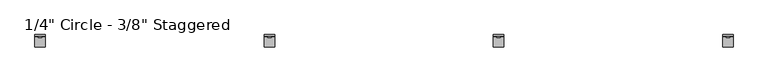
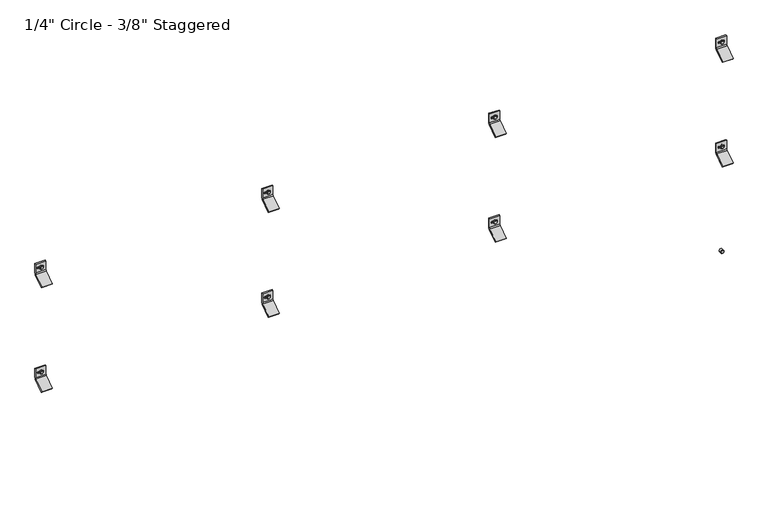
"""IFC4 building model written with IfcOpenShell, lengths in millimetres: plate geometry."""

from ifc_helpers import new_model, si_unit, point, frame, frame_2d, origin, place, context, project, spatial, polyline, circle_curve, trimmed, segment, composite_curve, outline, extrude, source, transform, mapped, element, save
from ifc_brep_helpers import plane_surface, cylinder_surface, revolved_surface, advanced_brep


def plate_8bd8e4bf(model_context):
    return source(origin(), model_context, "Body", "SolidModel", [
        extrude(outline(polyline([(1395.4295323, 1250.1282054), (1391.0838197, 1252.6372037), (1391.0838197, 1257.6552003), (1395.4295323, 1260.1641986), (1399.7752448, 1257.6552003), (1399.7752448, 1252.6372037), (1395.4295323, 1250.1282054)])), frame((0.0, -58.7607779, 0.0), z_axis=(0.0, 1.0, 0.0), x_axis=(0.0, 0.0, 1.0)), (0.0, 0.0, 1.0), 11.1357779),
        extrude(outline(composite_curve([segment(trimmed(circle_curve(frame_2d((1395.5228392, 1255.146202)), 6.35), [point((1395.5228392, 1261.496202))], [point((1395.5228392, 1248.796202))], False, "CARTESIAN"), True, "CONTINUOUS"), segment(trimmed(circle_curve(frame_2d((1395.5228392, 1255.146202)), 6.35), [point((1395.5228392, 1248.796202))], [point((1395.5228392, 1261.496202))], False, "CARTESIAN"), True, "CONTINUOUS")], self_intersect=False)), frame((0.0, -57.0817743, 0.0), z_axis=(0.0, 1.0, 0.0), x_axis=(0.0, 0.0, 1.0)), (0.0, 0.0, 1.0), 9.4567743),
        advanced_brep(
        [(1236.096202, -47.625, 1378.2802202), (1236.096202, -51.2819443, 1370.6181877), (1236.096202, -89.5163624, 1343.84616), (1236.096202, -92.9330442, 1347.2628418), (1236.096202, -54.3526876, 1374.2770983), (1236.096202, -52.4002, 1378.2802911), (1236.096202, -52.4002, 1412.4729053), (1236.096202, -47.625, 1412.4729053), (1274.196202, -47.625, 1378.2802202), (1274.196202, -47.625, 1412.4729053), (1274.196202, -52.4002, 1412.4729053), (1274.196202, -52.4002, 1378.2802911), (1274.196202, -54.3526876, 1374.2770983), (1274.196202, -92.9330442, 1347.2628418), (1274.196202, -89.5163624, 1343.84616), (1274.196202, -51.2819443, 1370.6181877), (1261.8873909, -52.4002, 1398.4276891), (1261.8873909, -52.4002, 1392.0776891), (1245.6595307, -52.4002, 1392.0776891), (1245.6595307, -52.4002, 1398.4276891), (1261.8873909, -47.625, 1392.0776891), (1261.8873909, -47.625, 1398.4276891), (1245.6595307, -47.625, 1398.4276891), (1245.6595307, -47.625, 1392.0776891)],
        [
            (0, 1, circle_curve(frame((1236.096202, -57.4802202, 1378.2802202), z_axis=(-1.0, 0.0, 0.0), x_axis=(0.0, -1.0, 0.0)), 9.8552202)),
            (1, 2),
            (2, 3),
            (3, 4),
            (4, 5, circle_curve(frame((1236.096202, -57.4803246, 1378.2802911), z_axis=(1.0, 0.0, 0.0), x_axis=(0.0, -1.0, 0.0)), 5.0801246)),
            (5, 6),
            (6, 7),
            (7, 0),
            (8, 9),
            (9, 10),
            (10, 11),
            (11, 12, circle_curve(frame((1274.196202, -57.4803246, 1378.2802911), z_axis=(-1.0, 0.0, 0.0), x_axis=(0.0, -1.0, 0.0)), 5.0801246)),
            (12, 13),
            (13, 14),
            (14, 15),
            (15, 8, circle_curve(frame((1274.196202, -57.4802202, 1378.2802202), z_axis=(1.0, 0.0, 0.0), x_axis=(0.0, -1.0, 0.0)), 9.8552202)),
            (4, 12),
            (11, 5),
            (10, 6),
            (16, 17, circle_curve(frame((1261.8873909, -52.4002, 1395.2526891), z_axis=(0.0, 1.0, 0.0), x_axis=(0.0, 0.0, -1.0)), 3.175)),
            (17, 18),
            (18, 19, circle_curve(frame((1245.6595307, -52.4002, 1395.2526891), z_axis=(0.0, 1.0, 0.0), x_axis=(0.0, 0.0, -1.0)), 3.175)),
            (19, 16),
            (9, 7),
            (8, 0),
            (20, 21, circle_curve(frame((1261.8873909, -47.625, 1395.2526891), z_axis=(0.0, -1.0, 0.0), x_axis=(0.0, 0.0, -1.0)), 3.175)),
            (21, 22),
            (22, 23, circle_curve(frame((1245.6595307, -47.625, 1395.2526891), z_axis=(0.0, -1.0, 0.0), x_axis=(0.0, 0.0, -1.0)), 3.175)),
            (23, 20),
            (15, 1),
            (20, 17),
            (16, 21),
            (19, 22),
            (18, 23),
            (14, 2),
            (13, 3),
        ],
        [
            plane_surface(frame((1236.096202, -67.3354404, 1378.2802202), z_axis=(-1.0, 0.0, 0.0), x_axis=(0.0, 0.0, 1.0))),
            plane_surface(frame((1274.196202, -67.3354404, 1378.2802202), z_axis=(1.0, 0.0, 0.0), x_axis=(0.0, 0.0, -1.0))),
            revolved_surface(polyline([(1274.196202, -62.5604492, 1378.2802911), (1236.096202, -62.5604492, 1378.2802911)]), (1274.196202, -57.4803246, 1378.2802911), (1.0, 0.0, 0.0)),
            plane_surface(frame((1236.096202, -52.4002, 1378.2802911), z_axis=(0.0, -1.0, 0.0), x_axis=(1.0, 0.0, 0.0))),
            plane_surface(frame((1236.096202, -52.4002, 1412.4729053), z_axis=(0.0, 0.0, 1.0), x_axis=(1.0, 0.0, 0.0))),
            plane_surface(frame((1236.096202, -47.625, 1412.4729053), z_axis=(0.0, 1.0, 6.99569853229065e-12), x_axis=(1.0, 0.0, 0.0))),
            cylinder_surface(frame((1274.196202, -57.4802202, 1378.2802202), z_axis=(-1.0, 0.0, 0.0), x_axis=(0.0, -1.0, 0.0)), 9.8552202),
            revolved_surface(polyline([(1261.8873909, -52.4002, 1392.0776891), (1261.8873909, -47.625, 1392.0776891)]), (1261.8873909, -25.6669948, 1395.2526891), (0.0, -1.0, 0.0)),
            plane_surface(frame((1261.8873909, -86.677982, 1398.4276891), z_axis=(0.0, 0.0, -1.0), x_axis=(0.0, 1.0, 0.0))),
            revolved_surface(polyline([(1245.6595307, -52.4002, 1392.0776891), (1245.6595307, -47.625, 1392.0776891)]), (1245.6595307, -25.6669948, 1395.2526891), (0.0, -1.0, 0.0)),
            plane_surface(frame((1245.6595307, -86.677982, 1392.0776891), z_axis=(-2.7237720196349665e-11, 0.0, 1.0), x_axis=(0.0, 1.0, 0.0))),
            plane_surface(frame((1236.096202, -51.2819443, 1370.6181877), z_axis=(0.0, 0.5735764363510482, -0.8191520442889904), x_axis=(1.0, 0.0, 0.0))),
            plane_surface(frame((1236.096202, -89.5163624, 1343.84616), z_axis=(0.0, -0.7071067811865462, -0.7071067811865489), x_axis=(1.0, 0.0, 0.0))),
            plane_surface(frame((1236.096202, -92.9330442, 1347.2628418), z_axis=(0.0, -0.5735764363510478, 0.8191520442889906), x_axis=(1.0, 0.0, 0.0))),
        ],
        [
            (0, [[1, 2, 3, 4, 5, 6, 7, 8]]),
            (1, [[9, 10, 11, 12, 13, 14, 15, 16]]),
            (2, [[-5, 17, -12, 18]]),
            (3, [[-6, -18, -11, 19], [20, 21, 22, 23]]),
            (4, [[-7, -19, -10, 24]]),
            (5, [[-8, -24, -9, 25], [26, 27, 28, 29]]),
            (6, [[-1, -25, -16, 30]]),
            (7, [[31, -20, 32, -26]]),
            (8, [[-32, -23, 33, -27]]),
            (9, [[-33, -22, 34, -28]]),
            (10, [[-31, -29, -34, -21]]),
            (11, [[-2, -30, -15, 35]]),
            (12, [[-3, -35, -14, 36]]),
            (13, [[-4, -36, -13, -17]]),
        ],
    ),
        extrude(outline(polyline([(1395.4295323, 413.3640708), (1391.0838197, 415.873069), (1391.0838197, 420.8910656), (1395.4295323, 423.4000639), (1399.7752448, 420.8910656), (1399.7752448, 415.873069), (1395.4295323, 413.3640708)])), frame((0.0, -58.7607779, 0.0), z_axis=(0.0, 1.0, 0.0), x_axis=(0.0, 0.0, 1.0)), (0.0, 0.0, 1.0), 11.1357779),
        extrude(outline(composite_curve([segment(trimmed(circle_curve(frame_2d((1395.5228392, 418.3820673)), 6.35), [point((1395.5228392, 424.7320673))], [point((1395.5228392, 412.0320673))], False, "CARTESIAN"), True, "CONTINUOUS"), segment(trimmed(circle_curve(frame_2d((1395.5228392, 418.3820673)), 6.35), [point((1395.5228392, 412.0320673))], [point((1395.5228392, 424.7320673))], False, "CARTESIAN"), True, "CONTINUOUS")], self_intersect=False)), frame((0.0, -57.0817743, 0.0), z_axis=(0.0, 1.0, 0.0), x_axis=(0.0, 0.0, 1.0)), (0.0, 0.0, 1.0), 9.4567743),
        advanced_brep(
        [(399.3320673, -47.625, 1378.2802202), (399.3320673, -51.2819443, 1370.6181877), (399.3320673, -89.5163624, 1343.84616), (399.3320673, -92.9330442, 1347.2628418), (399.3320673, -54.3526876, 1374.2770983), (399.3320673, -52.4002, 1378.2802911), (399.3320673, -52.4002, 1412.4729053), (399.3320673, -47.625, 1412.4729053), (437.4320673, -47.625, 1378.2802202), (437.4320673, -47.625, 1412.4729053), (437.4320673, -52.4002, 1412.4729053), (437.4320673, -52.4002, 1378.2802911), (437.4320673, -54.3526876, 1374.2770983), (437.4320673, -92.9330442, 1347.2628418), (437.4320673, -89.5163624, 1343.84616), (437.4320673, -51.2819443, 1370.6181877), (425.1232562, -52.4002, 1398.4276891), (425.1232562, -52.4002, 1392.0776891), (408.895396, -52.4002, 1392.0776891), (408.895396, -52.4002, 1398.4276891), (425.1232562, -47.625, 1392.0776891), (425.1232562, -47.625, 1398.4276891), (408.895396, -47.625, 1398.4276891), (408.895396, -47.625, 1392.0776891)],
        [
            (0, 1, circle_curve(frame((399.3320673, -57.4802202, 1378.2802202), z_axis=(-1.0, 0.0, 0.0), x_axis=(0.0, -1.0, 0.0)), 9.8552202)),
            (1, 2),
            (2, 3),
            (3, 4),
            (4, 5, circle_curve(frame((399.3320673, -57.4803246, 1378.2802911), z_axis=(1.0, 0.0, 0.0), x_axis=(0.0, -1.0, 0.0)), 5.0801246)),
            (5, 6),
            (6, 7),
            (7, 0),
            (8, 9),
            (9, 10),
            (10, 11),
            (11, 12, circle_curve(frame((437.4320673, -57.4803246, 1378.2802911), z_axis=(-1.0, 0.0, 0.0), x_axis=(0.0, -1.0, 0.0)), 5.0801246)),
            (12, 13),
            (13, 14),
            (14, 15),
            (15, 8, circle_curve(frame((437.4320673, -57.4802202, 1378.2802202), z_axis=(1.0, 0.0, 0.0), x_axis=(0.0, -1.0, 0.0)), 9.8552202)),
            (4, 12),
            (11, 5),
            (10, 6),
            (16, 17, circle_curve(frame((425.1232562, -52.4002, 1395.2526891), z_axis=(0.0, 1.0, 0.0), x_axis=(0.0, 0.0, -1.0)), 3.175)),
            (17, 18),
            (18, 19, circle_curve(frame((408.895396, -52.4002, 1395.2526891), z_axis=(0.0, 1.0, 0.0), x_axis=(0.0, 0.0, -1.0)), 3.175)),
            (19, 16),
            (9, 7),
            (8, 0),
            (20, 21, circle_curve(frame((425.1232562, -47.625, 1395.2526891), z_axis=(0.0, -1.0, 0.0), x_axis=(0.0, 0.0, -1.0)), 3.175)),
            (21, 22),
            (22, 23, circle_curve(frame((408.895396, -47.625, 1395.2526891), z_axis=(0.0, -1.0, 0.0), x_axis=(0.0, 0.0, -1.0)), 3.175)),
            (23, 20),
            (15, 1),
            (20, 17),
            (16, 21),
            (19, 22),
            (18, 23),
            (14, 2),
            (13, 3),
        ],
        [
            plane_surface(frame((399.3320673, -67.3354404, 1378.2802202), z_axis=(-1.0, 0.0, 0.0), x_axis=(0.0, 0.0, 1.0))),
            plane_surface(frame((437.4320673, -67.3354404, 1378.2802202), z_axis=(1.0, 0.0, 0.0), x_axis=(0.0, 0.0, -1.0))),
            revolved_surface(polyline([(437.4320673, -62.5604492, 1378.2802911), (399.3320673, -62.5604492, 1378.2802911)]), (437.4320673, -57.4803246, 1378.2802911), (1.0, 0.0, 0.0)),
            plane_surface(frame((399.3320673, -52.4002, 1378.2802911), z_axis=(0.0, -1.0, 0.0), x_axis=(1.0, 0.0, 0.0))),
            plane_surface(frame((399.3320673, -52.4002, 1412.4729053), z_axis=(0.0, 0.0, 1.0), x_axis=(1.0, 0.0, 0.0))),
            plane_surface(frame((399.3320673, -47.625, 1412.4729053), z_axis=(0.0, 1.0, 6.99569853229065e-12), x_axis=(1.0, 0.0, 0.0))),
            cylinder_surface(frame((437.4320673, -57.4802202, 1378.2802202), z_axis=(-1.0, 0.0, 0.0), x_axis=(0.0, -1.0, 0.0)), 9.8552202),
            revolved_surface(polyline([(425.1232562, -52.4002, 1392.0776891), (425.1232562, -47.625, 1392.0776891)]), (425.1232562, -25.6669948, 1395.2526891), (0.0, -1.0, 0.0)),
            plane_surface(frame((425.1232562, -86.677982, 1398.4276891), z_axis=(0.0, 0.0, -1.0), x_axis=(0.0, 1.0, 0.0))),
            revolved_surface(polyline([(408.895396, -52.4002, 1392.0776891), (408.895396, -47.625, 1392.0776891)]), (408.895396, -25.6669948, 1395.2526891), (0.0, -1.0, 0.0)),
            plane_surface(frame((408.895396, -86.677982, 1392.0776891), z_axis=(-2.7237720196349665e-11, 0.0, 1.0), x_axis=(0.0, 1.0, 0.0))),
            plane_surface(frame((399.3320673, -51.2819443, 1370.6181877), z_axis=(0.0, 0.5735764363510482, -0.8191520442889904), x_axis=(1.0, 0.0, 0.0))),
            plane_surface(frame((399.3320673, -89.5163624, 1343.84616), z_axis=(0.0, -0.7071067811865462, -0.7071067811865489), x_axis=(1.0, 0.0, 0.0))),
            plane_surface(frame((399.3320673, -92.9330442, 1347.2628418), z_axis=(0.0, -0.5735764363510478, 0.8191520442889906), x_axis=(1.0, 0.0, 0.0))),
        ],
        [
            (0, [[1, 2, 3, 4, 5, 6, 7, 8]]),
            (1, [[9, 10, 11, 12, 13, 14, 15, 16]]),
            (2, [[-5, 17, -12, 18]]),
            (3, [[-6, -18, -11, 19], [20, 21, 22, 23]]),
            (4, [[-7, -19, -10, 24]]),
            (5, [[-8, -24, -9, 25], [26, 27, 28, 29]]),
            (6, [[-1, -25, -16, 30]]),
            (7, [[31, -20, 32, -26]]),
            (8, [[-32, -23, 33, -27]]),
            (9, [[-33, -22, 34, -28]]),
            (10, [[-31, -29, -34, -21]]),
            (11, [[-2, -30, -15, 35]]),
            (12, [[-3, -35, -14, 36]]),
            (13, [[-4, -36, -13, -17]]),
        ],
    ),
        extrude(outline(polyline([(1395.4295323, -423.4000639), (1391.0838197, -420.8910656), (1391.0838197, -415.873069), (1395.4295323, -413.3640708), (1399.7752448, -415.873069), (1399.7752448, -420.8910656), (1395.4295323, -423.4000639)])), frame((0.0, -58.7607779, 0.0), z_axis=(0.0, 1.0, 0.0), x_axis=(0.0, 0.0, 1.0)), (0.0, 0.0, 1.0), 11.1357779),
        extrude(outline(composite_curve([segment(trimmed(circle_curve(frame_2d((1395.5228392, -418.3820673)), 6.35), [point((1395.5228392, -412.0320673))], [point((1395.5228392, -424.7320673))], False, "CARTESIAN"), True, "CONTINUOUS"), segment(trimmed(circle_curve(frame_2d((1395.5228392, -418.3820673)), 6.35), [point((1395.5228392, -424.7320673))], [point((1395.5228392, -412.0320673))], False, "CARTESIAN"), True, "CONTINUOUS")], self_intersect=False)), frame((0.0, -57.0817743, 0.0), z_axis=(0.0, 1.0, 0.0), x_axis=(0.0, 0.0, 1.0)), (0.0, 0.0, 1.0), 9.4567743),
        advanced_brep(
        [(-437.4320673, -47.625, 1378.2802202), (-437.4320673, -51.2819443, 1370.6181877), (-437.4320673, -89.5163624, 1343.84616), (-437.4320673, -92.9330442, 1347.2628418), (-437.4320673, -54.3526876, 1374.2770983), (-437.4320673, -52.4002, 1378.2802911), (-437.4320673, -52.4002, 1412.4729053), (-437.4320673, -47.625, 1412.4729053), (-399.3320673, -47.625, 1378.2802202), (-399.3320673, -47.625, 1412.4729053), (-399.3320673, -52.4002, 1412.4729053), (-399.3320673, -52.4002, 1378.2802911), (-399.3320673, -54.3526876, 1374.2770983), (-399.3320673, -92.9330442, 1347.2628418), (-399.3320673, -89.5163624, 1343.84616), (-399.3320673, -51.2819443, 1370.6181877), (-411.6408784, -52.4002, 1398.4276891), (-411.6408784, -52.4002, 1392.0776891), (-427.8687386, -52.4002, 1392.0776891), (-427.8687386, -52.4002, 1398.4276891), (-411.6408784, -47.625, 1392.0776891), (-411.6408784, -47.625, 1398.4276891), (-427.8687386, -47.625, 1398.4276891), (-427.8687386, -47.625, 1392.0776891)],
        [
            (0, 1, circle_curve(frame((-437.4320673, -57.4802202, 1378.2802202), z_axis=(-1.0, 0.0, 0.0), x_axis=(0.0, -1.0, 0.0)), 9.8552202)),
            (1, 2),
            (2, 3),
            (3, 4),
            (4, 5, circle_curve(frame((-437.4320673, -57.4803246, 1378.2802911), z_axis=(1.0, 0.0, 0.0), x_axis=(0.0, -1.0, 0.0)), 5.0801246)),
            (5, 6),
            (6, 7),
            (7, 0),
            (8, 9),
            (9, 10),
            (10, 11),
            (11, 12, circle_curve(frame((-399.3320673, -57.4803246, 1378.2802911), z_axis=(-1.0, 0.0, 0.0), x_axis=(0.0, -1.0, 0.0)), 5.0801246)),
            (12, 13),
            (13, 14),
            (14, 15),
            (15, 8, circle_curve(frame((-399.3320673, -57.4802202, 1378.2802202), z_axis=(1.0, 0.0, 0.0), x_axis=(0.0, -1.0, 0.0)), 9.8552202)),
            (4, 12),
            (11, 5),
            (10, 6),
            (16, 17, circle_curve(frame((-411.6408784, -52.4002, 1395.2526891), z_axis=(0.0, 1.0, 0.0), x_axis=(0.0, 0.0, -1.0)), 3.175)),
            (17, 18),
            (18, 19, circle_curve(frame((-427.8687386, -52.4002, 1395.2526891), z_axis=(0.0, 1.0, 0.0), x_axis=(0.0, 0.0, -1.0)), 3.175)),
            (19, 16),
            (9, 7),
            (8, 0),
            (20, 21, circle_curve(frame((-411.6408784, -47.625, 1395.2526891), z_axis=(0.0, -1.0, 0.0), x_axis=(0.0, 0.0, -1.0)), 3.175)),
            (21, 22),
            (22, 23, circle_curve(frame((-427.8687386, -47.625, 1395.2526891), z_axis=(0.0, -1.0, 0.0), x_axis=(0.0, 0.0, -1.0)), 3.175)),
            (23, 20),
            (15, 1),
            (20, 17),
            (16, 21),
            (19, 22),
            (18, 23),
            (14, 2),
            (13, 3),
        ],
        [
            plane_surface(frame((-437.4320673, -67.3354404, 1378.2802202), z_axis=(-1.0, 0.0, 0.0), x_axis=(0.0, 0.0, 1.0))),
            plane_surface(frame((-399.3320673, -67.3354404, 1378.2802202), z_axis=(1.0, 0.0, 0.0), x_axis=(0.0, 0.0, -1.0))),
            revolved_surface(polyline([(-399.3320673, -62.5604492, 1378.2802911), (-437.4320673, -62.5604492, 1378.2802911)]), (-399.3320673, -57.4803246, 1378.2802911), (1.0, 0.0, 0.0)),
            plane_surface(frame((-437.4320673, -52.4002, 1378.2802911), z_axis=(0.0, -1.0, 0.0), x_axis=(1.0, 0.0, 0.0))),
            plane_surface(frame((-437.4320673, -52.4002, 1412.4729053), z_axis=(0.0, 0.0, 1.0), x_axis=(1.0, 0.0, 0.0))),
            plane_surface(frame((-437.4320673, -47.625, 1412.4729053), z_axis=(0.0, 1.0, 6.99569853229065e-12), x_axis=(1.0, 0.0, 0.0))),
            cylinder_surface(frame((-399.3320673, -57.4802202, 1378.2802202), z_axis=(-1.0, 0.0, 0.0), x_axis=(0.0, -1.0, 0.0)), 9.8552202),
            revolved_surface(polyline([(-411.6408784, -52.4002, 1392.0776891), (-411.6408784, -47.625, 1392.0776891)]), (-411.6408784, -25.6669948, 1395.2526891), (0.0, -1.0, 0.0)),
            plane_surface(frame((-411.6408784, -86.677982, 1398.4276891), z_axis=(0.0, 0.0, -1.0), x_axis=(0.0, 1.0, 0.0))),
            revolved_surface(polyline([(-427.8687386, -52.4002, 1392.0776891), (-427.8687386, -47.625, 1392.0776891)]), (-427.8687386, -25.6669948, 1395.2526891), (0.0, -1.0, 0.0)),
            plane_surface(frame((-427.8687386, -86.677982, 1392.0776891), z_axis=(-2.7237720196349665e-11, 0.0, 1.0), x_axis=(0.0, 1.0, 0.0))),
            plane_surface(frame((-437.4320673, -51.2819443, 1370.6181877), z_axis=(0.0, 0.5735764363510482, -0.8191520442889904), x_axis=(1.0, 0.0, 0.0))),
            plane_surface(frame((-437.4320673, -89.5163624, 1343.84616), z_axis=(0.0, -0.7071067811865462, -0.7071067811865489), x_axis=(1.0, 0.0, 0.0))),
            plane_surface(frame((-437.4320673, -92.9330442, 1347.2628418), z_axis=(0.0, -0.5735764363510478, 0.8191520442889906), x_axis=(1.0, 0.0, 0.0))),
        ],
        [
            (0, [[1, 2, 3, 4, 5, 6, 7, 8]]),
            (1, [[9, 10, 11, 12, 13, 14, 15, 16]]),
            (2, [[-5, 17, -12, 18]]),
            (3, [[-6, -18, -11, 19], [20, 21, 22, 23]]),
            (4, [[-7, -19, -10, 24]]),
            (5, [[-8, -24, -9, 25], [26, 27, 28, 29]]),
            (6, [[-1, -25, -16, 30]]),
            (7, [[31, -20, 32, -26]]),
            (8, [[-32, -23, 33, -27]]),
            (9, [[-33, -22, 34, -28]]),
            (10, [[-31, -29, -34, -21]]),
            (11, [[-2, -30, -15, 35]]),
            (12, [[-3, -35, -14, 36]]),
            (13, [[-4, -36, -13, -17]]),
        ],
    ),
        extrude(outline(polyline([(1395.4295323, -1260.1641986), (1391.0838197, -1257.6552003), (1391.0838197, -1252.6372037), (1395.4295323, -1250.1282054), (1399.7752448, -1252.6372037), (1399.7752448, -1257.6552003), (1395.4295323, -1260.1641986)])), frame((0.0, -58.7607779, 0.0), z_axis=(0.0, 1.0, 0.0), x_axis=(0.0, 0.0, 1.0)), (0.0, 0.0, 1.0), 11.1357779),
        extrude(outline(composite_curve([segment(trimmed(circle_curve(frame_2d((1395.5228392, -1255.146202)), 6.35), [point((1395.5228392, -1248.796202))], [point((1395.5228392, -1261.496202))], False, "CARTESIAN"), True, "CONTINUOUS"), segment(trimmed(circle_curve(frame_2d((1395.5228392, -1255.146202)), 6.35), [point((1395.5228392, -1261.496202))], [point((1395.5228392, -1248.796202))], False, "CARTESIAN"), True, "CONTINUOUS")], self_intersect=False)), frame((0.0, -57.0817743, 0.0), z_axis=(0.0, 1.0, 0.0), x_axis=(0.0, 0.0, 1.0)), (0.0, 0.0, 1.0), 9.4567743),
        advanced_brep(
        [(-1274.196202, -47.625, 1378.2802202), (-1274.196202, -51.2819443, 1370.6181877), (-1274.196202, -89.5163624, 1343.84616), (-1274.196202, -92.9330442, 1347.2628418), (-1274.196202, -54.3526876, 1374.2770983), (-1274.196202, -52.4002, 1378.2802911), (-1274.196202, -52.4002, 1412.4729053), (-1274.196202, -47.625, 1412.4729053), (-1236.096202, -47.625, 1378.2802202), (-1236.096202, -47.625, 1412.4729053), (-1236.096202, -52.4002, 1412.4729053), (-1236.096202, -52.4002, 1378.2802911), (-1236.096202, -54.3526876, 1374.2770983), (-1236.096202, -92.9330442, 1347.2628418), (-1236.096202, -89.5163624, 1343.84616), (-1236.096202, -51.2819443, 1370.6181877), (-1248.4050131, -52.4002, 1398.4276891), (-1248.4050131, -52.4002, 1392.0776891), (-1264.6328733, -52.4002, 1392.0776891), (-1264.6328733, -52.4002, 1398.4276891), (-1248.4050131, -47.625, 1392.0776891), (-1248.4050131, -47.625, 1398.4276891), (-1264.6328733, -47.625, 1398.4276891), (-1264.6328733, -47.625, 1392.0776891)],
        [
            (0, 1, circle_curve(frame((-1274.196202, -57.4802202, 1378.2802202), z_axis=(-1.0, 0.0, 0.0), x_axis=(0.0, -1.0, 0.0)), 9.8552202)),
            (1, 2),
            (2, 3),
            (3, 4),
            (4, 5, circle_curve(frame((-1274.196202, -57.4803246, 1378.2802911), z_axis=(1.0, 0.0, 0.0), x_axis=(0.0, -1.0, 0.0)), 5.0801246)),
            (5, 6),
            (6, 7),
            (7, 0),
            (8, 9),
            (9, 10),
            (10, 11),
            (11, 12, circle_curve(frame((-1236.096202, -57.4803246, 1378.2802911), z_axis=(-1.0, 0.0, 0.0), x_axis=(0.0, -1.0, 0.0)), 5.0801246)),
            (12, 13),
            (13, 14),
            (14, 15),
            (15, 8, circle_curve(frame((-1236.096202, -57.4802202, 1378.2802202), z_axis=(1.0, 0.0, 0.0), x_axis=(0.0, -1.0, 0.0)), 9.8552202)),
            (4, 12),
            (11, 5),
            (10, 6),
            (16, 17, circle_curve(frame((-1248.4050131, -52.4002, 1395.2526891), z_axis=(0.0, 1.0, 0.0), x_axis=(0.0, 0.0, -1.0)), 3.175)),
            (17, 18),
            (18, 19, circle_curve(frame((-1264.6328733, -52.4002, 1395.2526891), z_axis=(0.0, 1.0, 0.0), x_axis=(0.0, 0.0, -1.0)), 3.175)),
            (19, 16),
            (9, 7),
            (8, 0),
            (20, 21, circle_curve(frame((-1248.4050131, -47.625, 1395.2526891), z_axis=(0.0, -1.0, 0.0), x_axis=(0.0, 0.0, -1.0)), 3.175)),
            (21, 22),
            (22, 23, circle_curve(frame((-1264.6328733, -47.625, 1395.2526891), z_axis=(0.0, -1.0, 0.0), x_axis=(0.0, 0.0, -1.0)), 3.175)),
            (23, 20),
            (15, 1),
            (20, 17),
            (16, 21),
            (19, 22),
            (18, 23),
            (14, 2),
            (13, 3),
        ],
        [
            plane_surface(frame((-1274.196202, -67.3354404, 1378.2802202), z_axis=(-1.0, 0.0, 0.0), x_axis=(0.0, 0.0, 1.0))),
            plane_surface(frame((-1236.096202, -67.3354404, 1378.2802202), z_axis=(1.0, 0.0, 0.0), x_axis=(0.0, 0.0, -1.0))),
            revolved_surface(polyline([(-1236.096202, -62.5604492, 1378.2802911), (-1274.196202, -62.5604492, 1378.2802911)]), (-1236.096202, -57.4803246, 1378.2802911), (1.0, 0.0, 0.0)),
            plane_surface(frame((-1274.196202, -52.4002, 1378.2802911), z_axis=(0.0, -1.0, 0.0), x_axis=(1.0, 0.0, 0.0))),
            plane_surface(frame((-1274.196202, -52.4002, 1412.4729053), z_axis=(0.0, 0.0, 1.0), x_axis=(1.0, 0.0, 0.0))),
            plane_surface(frame((-1274.196202, -47.625, 1412.4729053), z_axis=(0.0, 1.0, 6.99569853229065e-12), x_axis=(1.0, 0.0, 0.0))),
            cylinder_surface(frame((-1236.096202, -57.4802202, 1378.2802202), z_axis=(-1.0, 0.0, 0.0), x_axis=(0.0, -1.0, 0.0)), 9.8552202),
            revolved_surface(polyline([(-1248.4050131, -52.4002, 1392.0776891), (-1248.4050131, -47.625, 1392.0776891)]), (-1248.4050131, -25.6669948, 1395.2526891), (0.0, -1.0, 0.0)),
            plane_surface(frame((-1248.4050131, -86.677982, 1398.4276891), z_axis=(0.0, 0.0, -1.0), x_axis=(0.0, 1.0, 0.0))),
            revolved_surface(polyline([(-1264.6328733, -52.4002, 1392.0776891), (-1264.6328733, -47.625, 1392.0776891)]), (-1264.6328733, -25.6669948, 1395.2526891), (0.0, -1.0, 0.0)),
            plane_surface(frame((-1264.6328733, -86.677982, 1392.0776891), z_axis=(-2.7237720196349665e-11, 0.0, 1.0), x_axis=(0.0, 1.0, 0.0))),
            plane_surface(frame((-1274.196202, -51.2819443, 1370.6181877), z_axis=(0.0, 0.5735764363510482, -0.8191520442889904), x_axis=(1.0, 0.0, 0.0))),
            plane_surface(frame((-1274.196202, -89.5163624, 1343.84616), z_axis=(0.0, -0.7071067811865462, -0.7071067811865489), x_axis=(1.0, 0.0, 0.0))),
            plane_surface(frame((-1274.196202, -92.9330442, 1347.2628418), z_axis=(0.0, -0.5735764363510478, 0.8191520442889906), x_axis=(1.0, 0.0, 0.0))),
        ],
        [
            (0, [[1, 2, 3, 4, 5, 6, 7, 8]]),
            (1, [[9, 10, 11, 12, 13, 14, 15, 16]]),
            (2, [[-5, 17, -12, 18]]),
            (3, [[-6, -18, -11, 19], [20, 21, 22, 23]]),
            (4, [[-7, -19, -10, 24]]),
            (5, [[-8, -24, -9, 25], [26, 27, 28, 29]]),
            (6, [[-1, -25, -16, 30]]),
            (7, [[31, -20, 32, -26]]),
            (8, [[-32, -23, 33, -27]]),
            (9, [[-33, -22, 34, -28]]),
            (10, [[-31, -29, -34, -21]]),
            (11, [[-2, -30, -15, 35]]),
            (12, [[-3, -35, -14, 36]]),
            (13, [[-4, -36, -13, -17]]),
        ],
    ),
        extrude(outline(polyline([(986.9128656, 1250.1282054), (982.5671531, 1252.6372037), (982.5671531, 1257.6552003), (986.9128656, 1260.1641986), (991.2585781, 1257.6552003), (991.2585781, 1252.6372037), (986.9128656, 1250.1282054)])), frame((0.0, -58.7607779, 0.0), z_axis=(0.0, 1.0, 0.0), x_axis=(0.0, 0.0, 1.0)), (0.0, 0.0, 1.0), 11.1357779),
        extrude(outline(composite_curve([segment(trimmed(circle_curve(frame_2d((987.0061726, 1255.146202)), 6.35), [point((987.0061726, 1261.496202))], [point((987.0061726, 1248.796202))], False, "CARTESIAN"), True, "CONTINUOUS"), segment(trimmed(circle_curve(frame_2d((987.0061726, 1255.146202)), 6.35), [point((987.0061726, 1248.796202))], [point((987.0061726, 1261.496202))], False, "CARTESIAN"), True, "CONTINUOUS")], self_intersect=False)), frame((0.0, -57.0817743, 0.0), z_axis=(0.0, 1.0, 0.0), x_axis=(0.0, 0.0, 1.0)), (0.0, 0.0, 1.0), 9.4567743),
        advanced_brep(
        [(1236.096202, -47.625, 969.7635535), (1236.096202, -51.2819443, 962.1015211), (1236.096202, -89.5163624, 935.3294933), (1236.096202, -92.9330442, 938.7461751), (1236.096202, -54.3526876, 965.7604316), (1236.096202, -52.4002, 969.7636244), (1236.096202, -52.4002, 1003.9562386), (1236.096202, -47.625, 1003.9562386), (1274.196202, -47.625, 969.7635535), (1274.196202, -47.625, 1003.9562386), (1274.196202, -52.4002, 1003.9562386), (1274.196202, -52.4002, 969.7636244), (1274.196202, -54.3526876, 965.7604316), (1274.196202, -92.9330442, 938.7461751), (1274.196202, -89.5163624, 935.3294933), (1274.196202, -51.2819443, 962.1015211), (1261.8873909, -52.4002, 989.9110224), (1261.8873909, -52.4002, 983.5610224), (1245.6595307, -52.4002, 983.5610224), (1245.6595307, -52.4002, 989.9110224), (1261.8873909, -47.625, 983.5610224), (1261.8873909, -47.625, 989.9110224), (1245.6595307, -47.625, 989.9110224), (1245.6595307, -47.625, 983.5610224)],
        [
            (0, 1, circle_curve(frame((1236.096202, -57.4802202, 969.7635535), z_axis=(-1.0, 0.0, 0.0), x_axis=(0.0, -1.0, 0.0)), 9.8552202)),
            (1, 2),
            (2, 3),
            (3, 4),
            (4, 5, circle_curve(frame((1236.096202, -57.4803246, 969.7636244), z_axis=(1.0, 0.0, 0.0), x_axis=(0.0, -1.0, 0.0)), 5.0801246)),
            (5, 6),
            (6, 7),
            (7, 0),
            (8, 9),
            (9, 10),
            (10, 11),
            (11, 12, circle_curve(frame((1274.196202, -57.4803246, 969.7636244), z_axis=(-1.0, 0.0, 0.0), x_axis=(0.0, -1.0, 0.0)), 5.0801246)),
            (12, 13),
            (13, 14),
            (14, 15),
            (15, 8, circle_curve(frame((1274.196202, -57.4802202, 969.7635535), z_axis=(1.0, 0.0, 0.0), x_axis=(0.0, -1.0, 0.0)), 9.8552202)),
            (4, 12),
            (11, 5),
            (10, 6),
            (16, 17, circle_curve(frame((1261.8873909, -52.4002, 986.7360224), z_axis=(0.0, 1.0, 0.0), x_axis=(0.0, 0.0, -1.0)), 3.175)),
            (17, 18),
            (18, 19, circle_curve(frame((1245.6595307, -52.4002, 986.7360224), z_axis=(0.0, 1.0, 0.0), x_axis=(0.0, 0.0, -1.0)), 3.175)),
            (19, 16),
            (9, 7),
            (8, 0),
            (20, 21, circle_curve(frame((1261.8873909, -47.625, 986.7360224), z_axis=(0.0, -1.0, 0.0), x_axis=(0.0, 0.0, -1.0)), 3.175)),
            (21, 22),
            (22, 23, circle_curve(frame((1245.6595307, -47.625, 986.7360224), z_axis=(0.0, -1.0, 0.0), x_axis=(0.0, 0.0, -1.0)), 3.175)),
            (23, 20),
            (15, 1),
            (20, 17),
            (16, 21),
            (19, 22),
            (18, 23),
            (14, 2),
            (13, 3),
        ],
        [
            plane_surface(frame((1236.096202, -67.3354404, 969.7635535), z_axis=(-1.0, 0.0, 0.0), x_axis=(0.0, 0.0, 1.0))),
            plane_surface(frame((1274.196202, -67.3354404, 969.7635535), z_axis=(1.0, 0.0, 0.0), x_axis=(0.0, 0.0, -1.0))),
            revolved_surface(polyline([(1274.196202, -62.5604492, 969.7636244), (1236.096202, -62.5604492, 969.7636244)]), (1274.196202, -57.4803246, 969.7636244), (1.0, 0.0, 0.0)),
            plane_surface(frame((1236.096202, -52.4002, 969.7636244), z_axis=(0.0, -1.0, 0.0), x_axis=(1.0, 0.0, 0.0))),
            plane_surface(frame((1236.096202, -52.4002, 1003.9562386), z_axis=(0.0, 0.0, 1.0), x_axis=(1.0, 0.0, 0.0))),
            plane_surface(frame((1236.096202, -47.625, 1003.9562386), z_axis=(0.0, 1.0, 6.99569853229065e-12), x_axis=(1.0, 0.0, 0.0))),
            cylinder_surface(frame((1274.196202, -57.4802202, 969.7635535), z_axis=(-1.0, 0.0, 0.0), x_axis=(0.0, -1.0, 0.0)), 9.8552202),
            revolved_surface(polyline([(1261.8873909, -52.4002, 983.5610224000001), (1261.8873909, -47.625, 983.5610224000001)]), (1261.8873909, -25.6669948, 986.7360224), (0.0, -1.0, 0.0)),
            plane_surface(frame((1261.8873909, -86.677982, 989.9110224), z_axis=(0.0, 0.0, -1.0), x_axis=(0.0, 1.0, 0.0))),
            revolved_surface(polyline([(1245.6595307, -52.4002, 983.5610224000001), (1245.6595307, -47.625, 983.5610224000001)]), (1245.6595307, -25.6669948, 986.7360224), (0.0, -1.0, 0.0)),
            plane_surface(frame((1245.6595307, -86.677982, 983.5610224), z_axis=(-2.7237766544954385e-11, 0.0, 1.0), x_axis=(0.0, 1.0, 0.0))),
            plane_surface(frame((1236.096202, -51.2819443, 962.1015211), z_axis=(0.0, 0.5735764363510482, -0.8191520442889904), x_axis=(1.0, 0.0, 0.0))),
            plane_surface(frame((1236.096202, -89.5163624, 935.3294933), z_axis=(0.0, -0.7071067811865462, -0.7071067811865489), x_axis=(1.0, 0.0, 0.0))),
            plane_surface(frame((1236.096202, -92.9330442, 938.7461751), z_axis=(0.0, -0.5735764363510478, 0.8191520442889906), x_axis=(1.0, 0.0, 0.0))),
        ],
        [
            (0, [[1, 2, 3, 4, 5, 6, 7, 8]]),
            (1, [[9, 10, 11, 12, 13, 14, 15, 16]]),
            (2, [[-5, 17, -12, 18]]),
            (3, [[-6, -18, -11, 19], [20, 21, 22, 23]]),
            (4, [[-7, -19, -10, 24]]),
            (5, [[-8, -24, -9, 25], [26, 27, 28, 29]]),
            (6, [[-1, -25, -16, 30]]),
            (7, [[31, -20, 32, -26]]),
            (8, [[-32, -23, 33, -27]]),
            (9, [[-33, -22, 34, -28]]),
            (10, [[-31, -29, -34, -21]]),
            (11, [[-2, -30, -15, 35]]),
            (12, [[-3, -35, -14, 36]]),
            (13, [[-4, -36, -13, -17]]),
        ],
    ),
        extrude(outline(polyline([(986.9128656, 413.3640708), (982.5671531, 415.873069), (982.5671531, 420.8910656), (986.9128656, 423.4000639), (991.2585781, 420.8910656), (991.2585781, 415.873069), (986.9128656, 413.3640708)])), frame((0.0, -58.7607779, 0.0), z_axis=(0.0, 1.0, 0.0), x_axis=(0.0, 0.0, 1.0)), (0.0, 0.0, 1.0), 11.1357779),
        extrude(outline(composite_curve([segment(trimmed(circle_curve(frame_2d((987.0061726, 418.3820673)), 6.35), [point((987.0061726, 424.7320673))], [point((987.0061726, 412.0320673))], False, "CARTESIAN"), True, "CONTINUOUS"), segment(trimmed(circle_curve(frame_2d((987.0061726, 418.3820673)), 6.35), [point((987.0061726, 412.0320673))], [point((987.0061726, 424.7320673))], False, "CARTESIAN"), True, "CONTINUOUS")], self_intersect=False)), frame((0.0, -57.0817743, 0.0), z_axis=(0.0, 1.0, 0.0), x_axis=(0.0, 0.0, 1.0)), (0.0, 0.0, 1.0), 9.4567743),
        advanced_brep(
        [(399.3320673, -47.625, 969.7635535), (399.3320673, -51.2819443, 962.1015211), (399.3320673, -89.5163624, 935.3294933), (399.3320673, -92.9330442, 938.7461751), (399.3320673, -54.3526876, 965.7604316), (399.3320673, -52.4002, 969.7636244), (399.3320673, -52.4002, 1003.9562386), (399.3320673, -47.625, 1003.9562386), (437.4320673, -47.625, 969.7635535), (437.4320673, -47.625, 1003.9562386), (437.4320673, -52.4002, 1003.9562386), (437.4320673, -52.4002, 969.7636244), (437.4320673, -54.3526876, 965.7604316), (437.4320673, -92.9330442, 938.7461751), (437.4320673, -89.5163624, 935.3294933), (437.4320673, -51.2819443, 962.1015211), (425.1232562, -52.4002, 989.9110224), (425.1232562, -52.4002, 983.5610224), (408.895396, -52.4002, 983.5610224), (408.895396, -52.4002, 989.9110224), (425.1232562, -47.625, 983.5610224), (425.1232562, -47.625, 989.9110224), (408.895396, -47.625, 989.9110224), (408.895396, -47.625, 983.5610224)],
        [
            (0, 1, circle_curve(frame((399.3320673, -57.4802202, 969.7635535), z_axis=(-1.0, 0.0, 0.0), x_axis=(0.0, -1.0, 0.0)), 9.8552202)),
            (1, 2),
            (2, 3),
            (3, 4),
            (4, 5, circle_curve(frame((399.3320673, -57.4803246, 969.7636244), z_axis=(1.0, 0.0, 0.0), x_axis=(0.0, -1.0, 0.0)), 5.0801246)),
            (5, 6),
            (6, 7),
            (7, 0),
            (8, 9),
            (9, 10),
            (10, 11),
            (11, 12, circle_curve(frame((437.4320673, -57.4803246, 969.7636244), z_axis=(-1.0, 0.0, 0.0), x_axis=(0.0, -1.0, 0.0)), 5.0801246)),
            (12, 13),
            (13, 14),
            (14, 15),
            (15, 8, circle_curve(frame((437.4320673, -57.4802202, 969.7635535), z_axis=(1.0, 0.0, 0.0), x_axis=(0.0, -1.0, 0.0)), 9.8552202)),
            (4, 12),
            (11, 5),
            (10, 6),
            (16, 17, circle_curve(frame((425.1232562, -52.4002, 986.7360224), z_axis=(0.0, 1.0, 0.0), x_axis=(0.0, 0.0, -1.0)), 3.175)),
            (17, 18),
            (18, 19, circle_curve(frame((408.895396, -52.4002, 986.7360224), z_axis=(0.0, 1.0, 0.0), x_axis=(0.0, 0.0, -1.0)), 3.175)),
            (19, 16),
            (9, 7),
            (8, 0),
            (20, 21, circle_curve(frame((425.1232562, -47.625, 986.7360224), z_axis=(0.0, -1.0, 0.0), x_axis=(0.0, 0.0, -1.0)), 3.175)),
            (21, 22),
            (22, 23, circle_curve(frame((408.895396, -47.625, 986.7360224), z_axis=(0.0, -1.0, 0.0), x_axis=(0.0, 0.0, -1.0)), 3.175)),
            (23, 20),
            (15, 1),
            (20, 17),
            (16, 21),
            (19, 22),
            (18, 23),
            (14, 2),
            (13, 3),
        ],
        [
            plane_surface(frame((399.3320673, -67.3354404, 969.7635535), z_axis=(-1.0, 0.0, 0.0), x_axis=(0.0, 0.0, 1.0))),
            plane_surface(frame((437.4320673, -67.3354404, 969.7635535), z_axis=(1.0, 0.0, 0.0), x_axis=(0.0, 0.0, -1.0))),
            revolved_surface(polyline([(437.4320673, -62.5604492, 969.7636244), (399.3320673, -62.5604492, 969.7636244)]), (437.4320673, -57.4803246, 969.7636244), (1.0, 0.0, 0.0)),
            plane_surface(frame((399.3320673, -52.4002, 969.7636244), z_axis=(0.0, -1.0, 0.0), x_axis=(1.0, 0.0, 0.0))),
            plane_surface(frame((399.3320673, -52.4002, 1003.9562386), z_axis=(0.0, 0.0, 1.0), x_axis=(1.0, 0.0, 0.0))),
            plane_surface(frame((399.3320673, -47.625, 1003.9562386), z_axis=(0.0, 1.0, 6.99569853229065e-12), x_axis=(1.0, 0.0, 0.0))),
            cylinder_surface(frame((437.4320673, -57.4802202, 969.7635535), z_axis=(-1.0, 0.0, 0.0), x_axis=(0.0, -1.0, 0.0)), 9.8552202),
            revolved_surface(polyline([(425.1232562, -52.4002, 983.5610224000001), (425.1232562, -47.625, 983.5610224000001)]), (425.1232562, -25.6669948, 986.7360224), (0.0, -1.0, 0.0)),
            plane_surface(frame((425.1232562, -86.677982, 989.9110224), z_axis=(0.0, 0.0, -1.0), x_axis=(0.0, 1.0, 0.0))),
            revolved_surface(polyline([(408.895396, -52.4002, 983.5610224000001), (408.895396, -47.625, 983.5610224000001)]), (408.895396, -25.6669948, 986.7360224), (0.0, -1.0, 0.0)),
            plane_surface(frame((408.895396, -86.677982, 983.5610224), z_axis=(-2.7237766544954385e-11, 0.0, 1.0), x_axis=(0.0, 1.0, 0.0))),
            plane_surface(frame((399.3320673, -51.2819443, 962.1015211), z_axis=(0.0, 0.5735764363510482, -0.8191520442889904), x_axis=(1.0, 0.0, 0.0))),
            plane_surface(frame((399.3320673, -89.5163624, 935.3294933), z_axis=(0.0, -0.7071067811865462, -0.7071067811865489), x_axis=(1.0, 0.0, 0.0))),
            plane_surface(frame((399.3320673, -92.9330442, 938.7461751), z_axis=(0.0, -0.5735764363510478, 0.8191520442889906), x_axis=(1.0, 0.0, 0.0))),
        ],
        [
            (0, [[1, 2, 3, 4, 5, 6, 7, 8]]),
            (1, [[9, 10, 11, 12, 13, 14, 15, 16]]),
            (2, [[-5, 17, -12, 18]]),
            (3, [[-6, -18, -11, 19], [20, 21, 22, 23]]),
            (4, [[-7, -19, -10, 24]]),
            (5, [[-8, -24, -9, 25], [26, 27, 28, 29]]),
            (6, [[-1, -25, -16, 30]]),
            (7, [[31, -20, 32, -26]]),
            (8, [[-32, -23, 33, -27]]),
            (9, [[-33, -22, 34, -28]]),
            (10, [[-31, -29, -34, -21]]),
            (11, [[-2, -30, -15, 35]]),
            (12, [[-3, -35, -14, 36]]),
            (13, [[-4, -36, -13, -17]]),
        ],
    ),
        extrude(outline(polyline([(986.9128656, -423.4000639), (982.5671531, -420.8910656), (982.5671531, -415.873069), (986.9128656, -413.3640708), (991.2585781, -415.873069), (991.2585781, -420.8910656), (986.9128656, -423.4000639)])), frame((0.0, -58.7607779, 0.0), z_axis=(0.0, 1.0, 0.0), x_axis=(0.0, 0.0, 1.0)), (0.0, 0.0, 1.0), 11.1357779),
        extrude(outline(composite_curve([segment(trimmed(circle_curve(frame_2d((987.0061726, -418.3820673)), 6.35), [point((987.0061726, -412.0320673))], [point((987.0061726, -424.7320673))], False, "CARTESIAN"), True, "CONTINUOUS"), segment(trimmed(circle_curve(frame_2d((987.0061726, -418.3820673)), 6.35), [point((987.0061726, -424.7320673))], [point((987.0061726, -412.0320673))], False, "CARTESIAN"), True, "CONTINUOUS")], self_intersect=False)), frame((0.0, -57.0817743, 0.0), z_axis=(0.0, 1.0, 0.0), x_axis=(0.0, 0.0, 1.0)), (0.0, 0.0, 1.0), 9.4567743),
        advanced_brep(
        [(-437.4320673, -47.625, 969.7635535), (-437.4320673, -51.2819443, 962.1015211), (-437.4320673, -89.5163624, 935.3294933), (-437.4320673, -92.9330442, 938.7461751), (-437.4320673, -54.3526876, 965.7604316), (-437.4320673, -52.4002, 969.7636244), (-437.4320673, -52.4002, 1003.9562386), (-437.4320673, -47.625, 1003.9562386), (-399.3320673, -47.625, 969.7635535), (-399.3320673, -47.625, 1003.9562386), (-399.3320673, -52.4002, 1003.9562386), (-399.3320673, -52.4002, 969.7636244), (-399.3320673, -54.3526876, 965.7604316), (-399.3320673, -92.9330442, 938.7461751), (-399.3320673, -89.5163624, 935.3294933), (-399.3320673, -51.2819443, 962.1015211), (-411.6408784, -52.4002, 989.9110224), (-411.6408784, -52.4002, 983.5610224), (-427.8687386, -52.4002, 983.5610224), (-427.8687386, -52.4002, 989.9110224), (-411.6408784, -47.625, 983.5610224), (-411.6408784, -47.625, 989.9110224), (-427.8687386, -47.625, 989.9110224), (-427.8687386, -47.625, 983.5610224)],
        [
            (0, 1, circle_curve(frame((-437.4320673, -57.4802202, 969.7635535), z_axis=(-1.0, 0.0, 0.0), x_axis=(0.0, -1.0, 0.0)), 9.8552202)),
            (1, 2),
            (2, 3),
            (3, 4),
            (4, 5, circle_curve(frame((-437.4320673, -57.4803246, 969.7636244), z_axis=(1.0, 0.0, 0.0), x_axis=(0.0, -1.0, 0.0)), 5.0801246)),
            (5, 6),
            (6, 7),
            (7, 0),
            (8, 9),
            (9, 10),
            (10, 11),
            (11, 12, circle_curve(frame((-399.3320673, -57.4803246, 969.7636244), z_axis=(-1.0, 0.0, 0.0), x_axis=(0.0, -1.0, 0.0)), 5.0801246)),
            (12, 13),
            (13, 14),
            (14, 15),
            (15, 8, circle_curve(frame((-399.3320673, -57.4802202, 969.7635535), z_axis=(1.0, 0.0, 0.0), x_axis=(0.0, -1.0, 0.0)), 9.8552202)),
            (4, 12),
            (11, 5),
            (10, 6),
            (16, 17, circle_curve(frame((-411.6408784, -52.4002, 986.7360224), z_axis=(0.0, 1.0, 0.0), x_axis=(0.0, 0.0, -1.0)), 3.175)),
            (17, 18),
            (18, 19, circle_curve(frame((-427.8687386, -52.4002, 986.7360224), z_axis=(0.0, 1.0, 0.0), x_axis=(0.0, 0.0, -1.0)), 3.175)),
            (19, 16),
            (9, 7),
            (8, 0),
            (20, 21, circle_curve(frame((-411.6408784, -47.625, 986.7360224), z_axis=(0.0, -1.0, 0.0), x_axis=(0.0, 0.0, -1.0)), 3.175)),
            (21, 22),
            (22, 23, circle_curve(frame((-427.8687386, -47.625, 986.7360224), z_axis=(0.0, -1.0, 0.0), x_axis=(0.0, 0.0, -1.0)), 3.175)),
            (23, 20),
            (15, 1),
            (20, 17),
            (16, 21),
            (19, 22),
            (18, 23),
            (14, 2),
            (13, 3),
        ],
        [
            plane_surface(frame((-437.4320673, -67.3354404, 969.7635535), z_axis=(-1.0, 0.0, 0.0), x_axis=(0.0, 0.0, 1.0))),
            plane_surface(frame((-399.3320673, -67.3354404, 969.7635535), z_axis=(1.0, 0.0, 0.0), x_axis=(0.0, 0.0, -1.0))),
            revolved_surface(polyline([(-399.3320673, -62.5604492, 969.7636244), (-437.4320673, -62.5604492, 969.7636244)]), (-399.3320673, -57.4803246, 969.7636244), (1.0, 0.0, 0.0)),
            plane_surface(frame((-437.4320673, -52.4002, 969.7636244), z_axis=(0.0, -1.0, 0.0), x_axis=(1.0, 0.0, 0.0))),
            plane_surface(frame((-437.4320673, -52.4002, 1003.9562386), z_axis=(0.0, 0.0, 1.0), x_axis=(1.0, 0.0, 0.0))),
            plane_surface(frame((-437.4320673, -47.625, 1003.9562386), z_axis=(0.0, 1.0, 6.99569853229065e-12), x_axis=(1.0, 0.0, 0.0))),
            cylinder_surface(frame((-399.3320673, -57.4802202, 969.7635535), z_axis=(-1.0, 0.0, 0.0), x_axis=(0.0, -1.0, 0.0)), 9.8552202),
            revolved_surface(polyline([(-411.6408784, -52.4002, 983.5610224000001), (-411.6408784, -47.625, 983.5610224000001)]), (-411.6408784, -25.6669948, 986.7360224), (0.0, -1.0, 0.0)),
            plane_surface(frame((-411.6408784, -86.677982, 989.9110224), z_axis=(0.0, 0.0, -1.0), x_axis=(0.0, 1.0, 0.0))),
            revolved_surface(polyline([(-427.8687386, -52.4002, 983.5610224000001), (-427.8687386, -47.625, 983.5610224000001)]), (-427.8687386, -25.6669948, 986.7360224), (0.0, -1.0, 0.0)),
            plane_surface(frame((-427.8687386, -86.677982, 983.5610224), z_axis=(-2.7237766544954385e-11, 0.0, 1.0), x_axis=(0.0, 1.0, 0.0))),
            plane_surface(frame((-437.4320673, -51.2819443, 962.1015211), z_axis=(0.0, 0.5735764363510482, -0.8191520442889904), x_axis=(1.0, 0.0, 0.0))),
            plane_surface(frame((-437.4320673, -89.5163624, 935.3294933), z_axis=(0.0, -0.7071067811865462, -0.7071067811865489), x_axis=(1.0, 0.0, 0.0))),
            plane_surface(frame((-437.4320673, -92.9330442, 938.7461751), z_axis=(0.0, -0.5735764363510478, 0.8191520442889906), x_axis=(1.0, 0.0, 0.0))),
        ],
        [
            (0, [[1, 2, 3, 4, 5, 6, 7, 8]]),
            (1, [[9, 10, 11, 12, 13, 14, 15, 16]]),
            (2, [[-5, 17, -12, 18]]),
            (3, [[-6, -18, -11, 19], [20, 21, 22, 23]]),
            (4, [[-7, -19, -10, 24]]),
            (5, [[-8, -24, -9, 25], [26, 27, 28, 29]]),
            (6, [[-1, -25, -16, 30]]),
            (7, [[31, -20, 32, -26]]),
            (8, [[-32, -23, 33, -27]]),
            (9, [[-33, -22, 34, -28]]),
            (10, [[-31, -29, -34, -21]]),
            (11, [[-2, -30, -15, 35]]),
            (12, [[-3, -35, -14, 36]]),
            (13, [[-4, -36, -13, -17]]),
        ],
    ),
        extrude(outline(polyline([(986.9128656, -1260.1641986), (982.5671531, -1257.6552003), (982.5671531, -1252.6372037), (986.9128656, -1250.1282054), (991.2585781, -1252.6372037), (991.2585781, -1257.6552003), (986.9128656, -1260.1641986)])), frame((0.0, -58.7607779, 0.0), z_axis=(0.0, 1.0, 0.0), x_axis=(0.0, 0.0, 1.0)), (0.0, 0.0, 1.0), 11.1357779),
        extrude(outline(composite_curve([segment(trimmed(circle_curve(frame_2d((987.0061726, -1255.146202)), 6.35), [point((987.0061726, -1248.796202))], [point((987.0061726, -1261.496202))], False, "CARTESIAN"), True, "CONTINUOUS"), segment(trimmed(circle_curve(frame_2d((987.0061726, -1255.146202)), 6.35), [point((987.0061726, -1261.496202))], [point((987.0061726, -1248.796202))], False, "CARTESIAN"), True, "CONTINUOUS")], self_intersect=False)), frame((0.0, -57.0817743, 0.0), z_axis=(0.0, 1.0, 0.0), x_axis=(0.0, 0.0, 1.0)), (0.0, 0.0, 1.0), 9.4567743),
        advanced_brep(
        [(-1274.196202, -47.625, 969.7635535), (-1274.196202, -51.2819443, 962.1015211), (-1274.196202, -89.5163624, 935.3294933), (-1274.196202, -92.9330442, 938.7461751), (-1274.196202, -54.3526876, 965.7604316), (-1274.196202, -52.4002, 969.7636244), (-1274.196202, -52.4002, 1003.9562386), (-1274.196202, -47.625, 1003.9562386), (-1236.096202, -47.625, 969.7635535), (-1236.096202, -47.625, 1003.9562386), (-1236.096202, -52.4002, 1003.9562386), (-1236.096202, -52.4002, 969.7636244), (-1236.096202, -54.3526876, 965.7604316), (-1236.096202, -92.9330442, 938.7461751), (-1236.096202, -89.5163624, 935.3294933), (-1236.096202, -51.2819443, 962.1015211), (-1248.4050131, -52.4002, 989.9110224), (-1248.4050131, -52.4002, 983.5610224), (-1264.6328733, -52.4002, 983.5610224), (-1264.6328733, -52.4002, 989.9110224), (-1248.4050131, -47.625, 983.5610224), (-1248.4050131, -47.625, 989.9110224), (-1264.6328733, -47.625, 989.9110224), (-1264.6328733, -47.625, 983.5610224)],
        [
            (0, 1, circle_curve(frame((-1274.196202, -57.4802202, 969.7635535), z_axis=(-1.0, 0.0, 0.0), x_axis=(0.0, -1.0, 0.0)), 9.8552202)),
            (1, 2),
            (2, 3),
            (3, 4),
            (4, 5, circle_curve(frame((-1274.196202, -57.4803246, 969.7636244), z_axis=(1.0, 0.0, 0.0), x_axis=(0.0, -1.0, 0.0)), 5.0801246)),
            (5, 6),
            (6, 7),
            (7, 0),
            (8, 9),
            (9, 10),
            (10, 11),
            (11, 12, circle_curve(frame((-1236.096202, -57.4803246, 969.7636244), z_axis=(-1.0, 0.0, 0.0), x_axis=(0.0, -1.0, 0.0)), 5.0801246)),
            (12, 13),
            (13, 14),
            (14, 15),
            (15, 8, circle_curve(frame((-1236.096202, -57.4802202, 969.7635535), z_axis=(1.0, 0.0, 0.0), x_axis=(0.0, -1.0, 0.0)), 9.8552202)),
            (4, 12),
            (11, 5),
            (10, 6),
            (16, 17, circle_curve(frame((-1248.4050131, -52.4002, 986.7360224), z_axis=(0.0, 1.0, 0.0), x_axis=(0.0, 0.0, -1.0)), 3.175)),
            (17, 18),
            (18, 19, circle_curve(frame((-1264.6328733, -52.4002, 986.7360224), z_axis=(0.0, 1.0, 0.0), x_axis=(0.0, 0.0, -1.0)), 3.175)),
            (19, 16),
            (9, 7),
            (8, 0),
            (20, 21, circle_curve(frame((-1248.4050131, -47.625, 986.7360224), z_axis=(0.0, -1.0, 0.0), x_axis=(0.0, 0.0, -1.0)), 3.175)),
            (21, 22),
            (22, 23, circle_curve(frame((-1264.6328733, -47.625, 986.7360224), z_axis=(0.0, -1.0, 0.0), x_axis=(0.0, 0.0, -1.0)), 3.175)),
            (23, 20),
            (15, 1),
            (20, 17),
            (16, 21),
            (19, 22),
            (18, 23),
            (14, 2),
            (13, 3),
        ],
        [
            plane_surface(frame((-1274.196202, -67.3354404, 969.7635535), z_axis=(-1.0, 0.0, 0.0), x_axis=(0.0, 0.0, 1.0))),
            plane_surface(frame((-1236.096202, -67.3354404, 969.7635535), z_axis=(1.0, 0.0, 0.0), x_axis=(0.0, 0.0, -1.0))),
            revolved_surface(polyline([(-1236.096202, -62.5604492, 969.7636244), (-1274.196202, -62.5604492, 969.7636244)]), (-1236.096202, -57.4803246, 969.7636244), (1.0, 0.0, 0.0)),
            plane_surface(frame((-1274.196202, -52.4002, 969.7636244), z_axis=(0.0, -1.0, 0.0), x_axis=(1.0, 0.0, 0.0))),
            plane_surface(frame((-1274.196202, -52.4002, 1003.9562386), z_axis=(0.0, 0.0, 1.0), x_axis=(1.0, 0.0, 0.0))),
            plane_surface(frame((-1274.196202, -47.625, 1003.9562386), z_axis=(0.0, 1.0, 6.99569853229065e-12), x_axis=(1.0, 0.0, 0.0))),
            cylinder_surface(frame((-1236.096202, -57.4802202, 969.7635535), z_axis=(-1.0, 0.0, 0.0), x_axis=(0.0, -1.0, 0.0)), 9.8552202),
            revolved_surface(polyline([(-1248.4050131, -52.4002, 983.5610224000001), (-1248.4050131, -47.625, 983.5610224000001)]), (-1248.4050131, -25.6669948, 986.7360224), (0.0, -1.0, 0.0)),
            plane_surface(frame((-1248.4050131, -86.677982, 989.9110224), z_axis=(0.0, 0.0, -1.0), x_axis=(0.0, 1.0, 0.0))),
            revolved_surface(polyline([(-1264.6328733, -52.4002, 983.5610224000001), (-1264.6328733, -47.625, 983.5610224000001)]), (-1264.6328733, -25.6669948, 986.7360224), (0.0, -1.0, 0.0)),
            plane_surface(frame((-1264.6328733, -86.677982, 983.5610224), z_axis=(-2.7237766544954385e-11, 0.0, 1.0), x_axis=(0.0, 1.0, 0.0))),
            plane_surface(frame((-1274.196202, -51.2819443, 962.1015211), z_axis=(0.0, 0.5735764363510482, -0.8191520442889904), x_axis=(1.0, 0.0, 0.0))),
            plane_surface(frame((-1274.196202, -89.5163624, 935.3294933), z_axis=(0.0, -0.7071067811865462, -0.7071067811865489), x_axis=(1.0, 0.0, 0.0))),
            plane_surface(frame((-1274.196202, -92.9330442, 938.7461751), z_axis=(0.0, -0.5735764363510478, 0.8191520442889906), x_axis=(1.0, 0.0, 0.0))),
        ],
        [
            (0, [[1, 2, 3, 4, 5, 6, 7, 8]]),
            (1, [[9, 10, 11, 12, 13, 14, 15, 16]]),
            (2, [[-5, 17, -12, 18]]),
            (3, [[-6, -18, -11, 19], [20, 21, 22, 23]]),
            (4, [[-7, -19, -10, 24]]),
            (5, [[-8, -24, -9, 25], [26, 27, 28, 29]]),
            (6, [[-1, -25, -16, 30]]),
            (7, [[31, -20, 32, -26]]),
            (8, [[-32, -23, 33, -27]]),
            (9, [[-33, -22, 34, -28]]),
            (10, [[-31, -29, -34, -21]]),
            (11, [[-2, -30, -15, 35]]),
            (12, [[-3, -35, -14, 36]]),
            (13, [[-4, -36, -13, -17]]),
        ],
    ),
        extrude(outline(polyline([(578.3961989, 1250.1282054), (574.0504864, 1252.6372037), (574.0504864, 1257.6552003), (578.3961989, 1260.1641986), (582.7419114, 1257.6552003), (582.7419114, 1252.6372037), (578.3961989, 1250.1282054)])), frame((0.0, -58.7607779, 0.0), z_axis=(0.0, 1.0, 0.0), x_axis=(0.0, 0.0, 1.0)), (0.0, 0.0, 1.0), 11.1357779),
        extrude(outline(composite_curve([segment(trimmed(circle_curve(frame_2d((578.4895059, 1255.146202)), 6.35), [point((578.4895059, 1261.496202))], [point((578.4895059, 1248.796202))], False, "CARTESIAN"), True, "CONTINUOUS"), segment(trimmed(circle_curve(frame_2d((578.4895059, 1255.146202)), 6.35), [point((578.4895059, 1248.796202))], [point((578.4895059, 1261.496202))], False, "CARTESIAN"), True, "CONTINUOUS")], self_intersect=False)), frame((0.0, -57.0817743, 0.0), z_axis=(0.0, 1.0, 0.0), x_axis=(0.0, 0.0, 1.0)), (0.0, 0.0, 1.0), 9.4567743),
    ])


if __name__ == "__main__":
    model = new_model("IFC4")
    model_context = context("Model", 3, world=origin())
    ifc_project = project(units=[si_unit("LENGTHUNIT", "METRE", prefix="MILLI")], contexts=[model_context])
    site = spatial("IfcSite", under=ifc_project)
    building = spatial("IfcBuilding", under=site)
    placement = place(None, origin())
    plate_shape = plate_8bd8e4bf(model_context)
    element("IfcPlate", 1, ObjectType="Single-Panel-Perforated-Amico_Architectural : 1/4\" Circle - 3/8\" Staggered", at=placement, inside=building, context=model_context, shape_type="MappedRepresentation", body=[
        mapped(plate_shape, transform((0.0, 0.0, 0.0), x_axis=(1.0, 0.0, 0.0), y_axis=(0.0, 1.0, 0.0), z_axis=(0.0, 0.0, 1.0))),
    ])
    save(model, "model.ifc")
